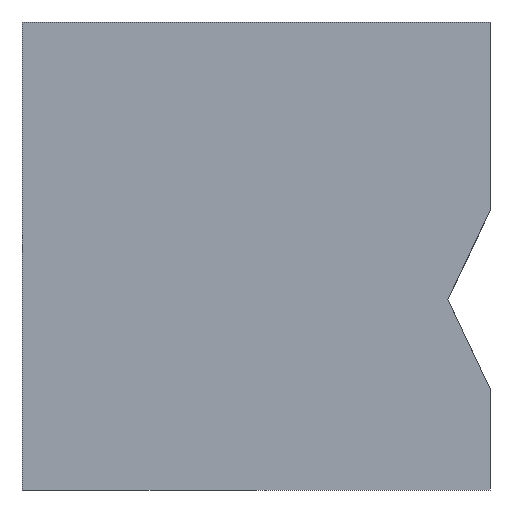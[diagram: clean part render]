
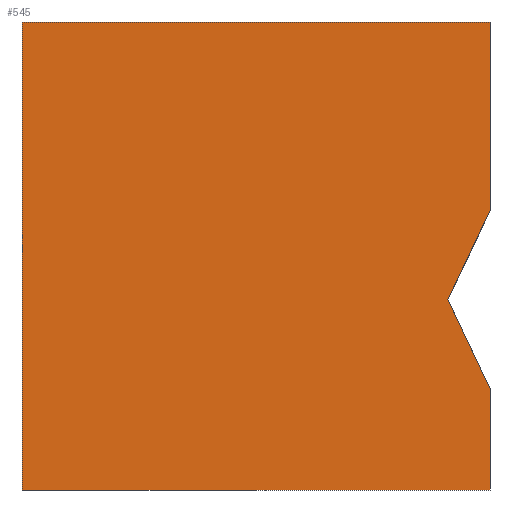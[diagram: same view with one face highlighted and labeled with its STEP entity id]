
A CAD part, left-side view. The second image highlights one B-rep face of the part: STEP entity #545.
In plain terms, the highlighted planar face has unit normal (-1, 0, 0).
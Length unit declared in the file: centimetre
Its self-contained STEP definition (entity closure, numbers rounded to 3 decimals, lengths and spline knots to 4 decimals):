
#15 = VECTOR ( 'NONE', #132, 100. ) ;
#31 = PLANE ( 'NONE',  #289 ) ;
#54 = CARTESIAN_POINT ( 'NONE',  ( 0., 1000., 1000. ) ) ;
#84 = VERTEX_POINT ( 'NONE', #54 ) ;
#107 = CARTESIAN_POINT ( 'NONE',  ( 0., 1000., 1000. ) ) ;
#128 = LINE ( 'NONE', #871, #143 ) ;
#132 = DIRECTION ( 'NONE',  ( 0., -0.428, -0.904 ) ) ;
#143 = VECTOR ( 'NONE', #200, 100. ) ;
#164 = DIRECTION ( 'NONE',  ( 0., 0., -1. ) ) ;
#169 = VERTEX_POINT ( 'NONE', #814 ) ;
#179 = DIRECTION ( 'NONE',  ( 0., 0., -1. ) ) ;
#188 = DIRECTION ( 'NONE',  ( 0., 0.428, -0.904 ) ) ;
#200 = DIRECTION ( 'NONE',  ( 0., 0., -1. ) ) ;
#228 = EDGE_CURVE ( 'NONE', #938, #465, #464, .T. ) ;
#239 = ORIENTED_EDGE ( 'NONE', *, *, #640, .F. ) ;
#255 = VERTEX_POINT ( 'NONE', #840 ) ;
#266 = CARTESIAN_POINT ( 'NONE',  ( 0., 90.1334, 406.3833 ) ) ;
#289 = AXIS2_PLACEMENT_3D ( 'NONE', #338, #750, #533 ) ;
#305 = VECTOR ( 'NONE', #715, 100. ) ;
#312 = ORIENTED_EDGE ( 'NONE', *, *, #228, .T. ) ;
#331 = VECTOR ( 'NONE', #188, 100. ) ;
#338 = CARTESIAN_POINT ( 'NONE',  ( 0., 1000., 1000. ) ) ;
#399 = CARTESIAN_POINT ( 'NONE',  ( 0., 0., 1000. ) ) ;
#404 = VERTEX_POINT ( 'NONE', #399 ) ;
#427 = CARTESIAN_POINT ( 'NONE',  ( 0., 0., 0. ) ) ;
#437 = EDGE_CURVE ( 'NONE', #84, #404, #852, .T. ) ;
#464 = LINE ( 'NONE', #536, #845 ) ;
#465 = VERTEX_POINT ( 'NONE', #427 ) ;
#496 = ORIENTED_EDGE ( 'NONE', *, *, #510, .F. ) ;
#498 = EDGE_CURVE ( 'NONE', #169, #465, #773, .T. ) ;
#510 = EDGE_CURVE ( 'NONE', #924, #255, #705, .T. ) ;
#533 = DIRECTION ( 'NONE',  ( 0., 0., -1. ) ) ;
#536 = CARTESIAN_POINT ( 'NONE',  ( 0., 1000., 0. ) ) ;
#539 = CARTESIAN_POINT ( 'NONE',  ( 0., 1000., 1000. ) ) ;
#545 = ADVANCED_FACE ( 'NONE', ( #700 ), #31, .F. ) ;
#566 = EDGE_CURVE ( 'NONE', #84, #938, #689, .T. ) ;
#573 = ORIENTED_EDGE ( 'NONE', *, *, #437, .F. ) ;
#577 = LINE ( 'NONE', #877, #15 ) ;
#610 = EDGE_CURVE ( 'NONE', #404, #924, #128, .T. ) ;
#624 = VECTOR ( 'NONE', #179, 100. ) ;
#625 = VECTOR ( 'NONE', #164, 100. ) ;
#636 = ORIENTED_EDGE ( 'NONE', *, *, #498, .F. ) ;
#640 = EDGE_CURVE ( 'NONE', #255, #169, #577, .T. ) ;
#647 = ORIENTED_EDGE ( 'NONE', *, *, #610, .F. ) ;
#689 = LINE ( 'NONE', #539, #625 ) ;
#700 = FACE_OUTER_BOUND ( 'NONE', #929, .T. ) ;
#705 = LINE ( 'NONE', #266, #331 ) ;
#715 = DIRECTION ( 'NONE',  ( 0., -1., 0. ) ) ;
#750 = DIRECTION ( 'NONE',  ( 1., 0., 0. ) ) ;
#770 = ORIENTED_EDGE ( 'NONE', *, *, #566, .T. ) ;
#773 = LINE ( 'NONE', #917, #624 ) ;
#814 = CARTESIAN_POINT ( 'NONE',  ( 0., 0., 216.1215 ) ) ;
#840 = CARTESIAN_POINT ( 'NONE',  ( 0., 90.1334, 406.3833 ) ) ;
#845 = VECTOR ( 'NONE', #898, 100. ) ;
#852 = LINE ( 'NONE', #107, #305 ) ;
#871 = CARTESIAN_POINT ( 'NONE',  ( 0., 0., 1000. ) ) ;
#874 = CARTESIAN_POINT ( 'NONE',  ( 0., 1000., 0. ) ) ;
#877 = CARTESIAN_POINT ( 'NONE',  ( 0., 0., 216.1215 ) ) ;
#898 = DIRECTION ( 'NONE',  ( 0., -1., 0. ) ) ;
#915 = CARTESIAN_POINT ( 'NONE',  ( 0., 0., 596.645 ) ) ;
#917 = CARTESIAN_POINT ( 'NONE',  ( 0., 0., 1000. ) ) ;
#924 = VERTEX_POINT ( 'NONE', #915 ) ;
#929 = EDGE_LOOP ( 'NONE', ( #636, #239, #496, #647, #573, #770, #312 ) ) ;
#938 = VERTEX_POINT ( 'NONE', #874 ) ;
